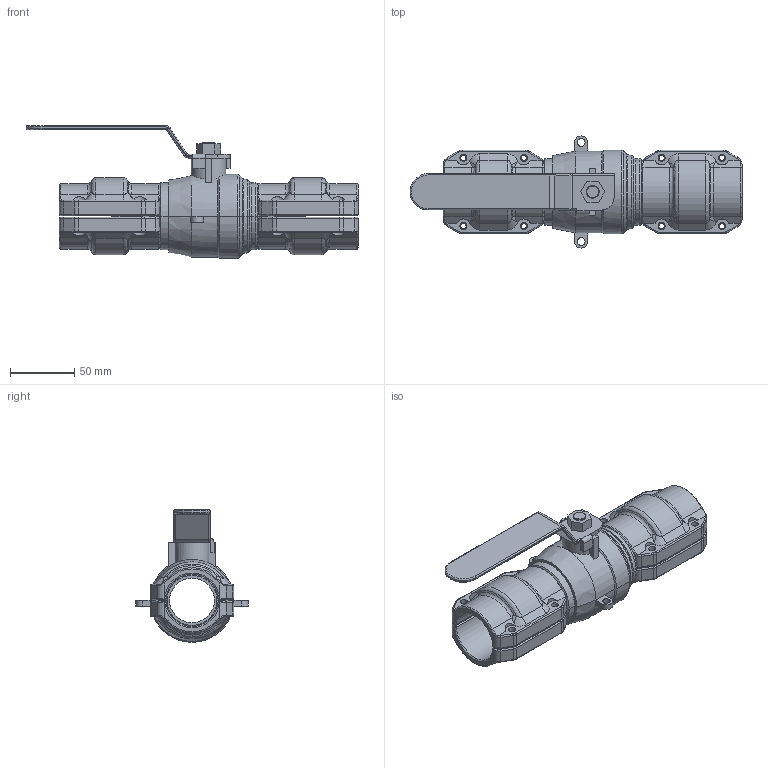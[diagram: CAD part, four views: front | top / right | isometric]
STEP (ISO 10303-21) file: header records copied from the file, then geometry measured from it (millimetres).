
FILE_DESCRIPTION((''),'2;1');
FILE_NAME('2015405199_ASM','2017-05-13T',('li'),(''),'PRO/ENGINEER BY PARAMETRIC TECHNOLOGY CORPORATION, 2009360','PRO/ENGINEER BY PARAMETRIC TECHNOLOGY CORPORATION, 2009360','');
FILE_SCHEMA(('AUTOMOTIVE_DESIGN { 1 0 10303 214 1 1 1 1 }'));
Length unit declared in the file: millimetre
Products named in the file (5): 2015405100; 201540020001; 201540020000; 2015400200_ASM; 2015405199_ASM
Assembly tree (5 placements, depth 3):
  2015405199_ASM
    2015405100
    2015400200_ASM  x2
      201540020001
      201540020000
Bounding box: 258.11 x 87.15 x 103.16 mm (x, y, z)
Volume: 301136.5 mm3; surface area: 125528.1 mm2
Topology: 5 solids, 5 shells, 586 faces, 1474 edges, 905 vertices
Faces by surface type: cylinder 243, plane 122, torus 118, bspline 48, cone 39, sphere 16
Entity records: 15536 total; most frequent: CARTESIAN_POINT 3404, DIRECTION 1957, ORIENTED_EDGE 1866, PRESENTATION_STYLE_ASSIGNMENT 936, STYLED_ITEM 936, CURVE_STYLE 933, EDGE_CURVE 933, AXIS2_PLACEMENT_3D 791
